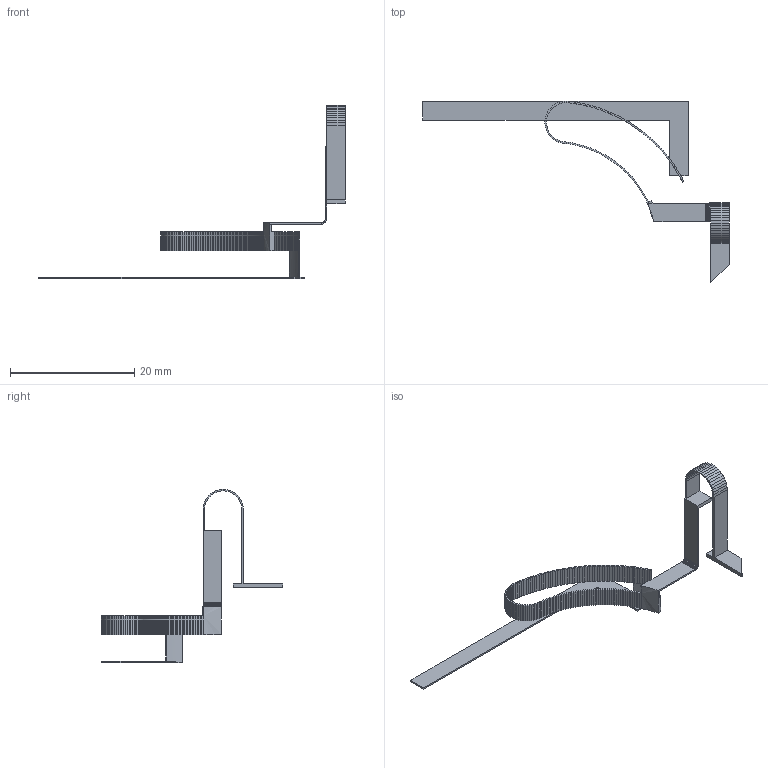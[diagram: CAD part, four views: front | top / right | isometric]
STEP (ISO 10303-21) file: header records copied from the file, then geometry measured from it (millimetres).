
FILE_DESCRIPTION(('Open CASCADE Model'),'2;1');
FILE_NAME('Open CASCADE Shape Model','2026-11-23T18:10:16',('Author'),( 'Open CASCADE'),'Open CASCADE STEP processor 8.0','build123d', 'Unknown');
FILE_SCHEMA(('AUTOMOTIVE_DESIGN { 1 0 10303 214 1 1 1 1 }'));
Length unit declared in the file: millimetre
Products named in the file (1): SOLID
Bounding box: 49.3 x 29.24 x 27.88 mm (x, y, z)
Volume: 140.8 mm3; surface area: 1109.8 mm2
Topology: 1 solids, 1 shells, 420 faces, 1255 edges, 837 vertices
Faces by surface type: plane 415, cylinder 5
Entity records: 30154 total; most frequent: CARTESIAN_POINT 5150, DIRECTION 4553, LINE 3668, VECTOR 3668, ORIENTED_EDGE 2510, PCURVE 2510, DEFINITIONAL_REPRESENTATION 2510, EDGE_CURVE 1255
